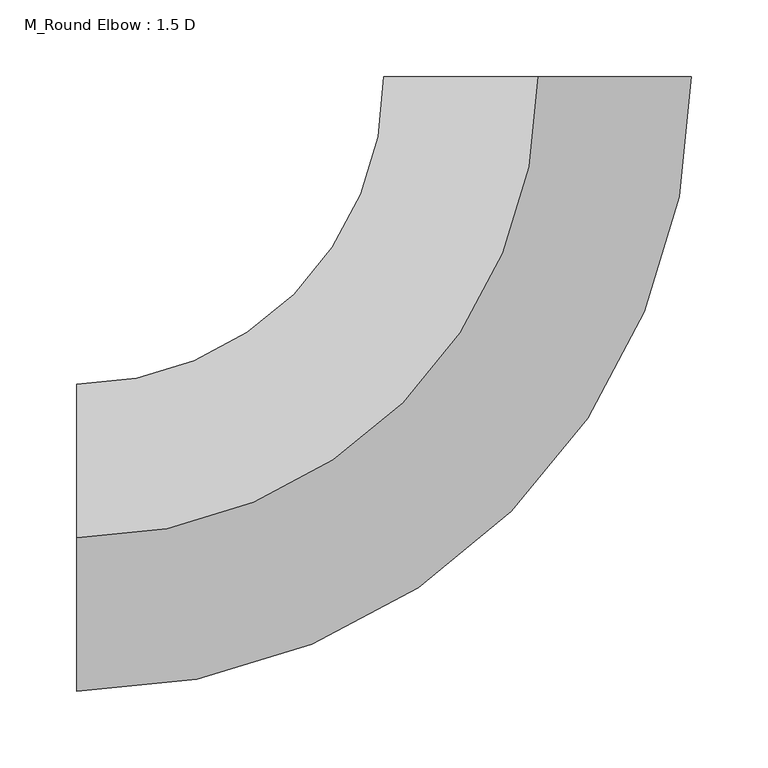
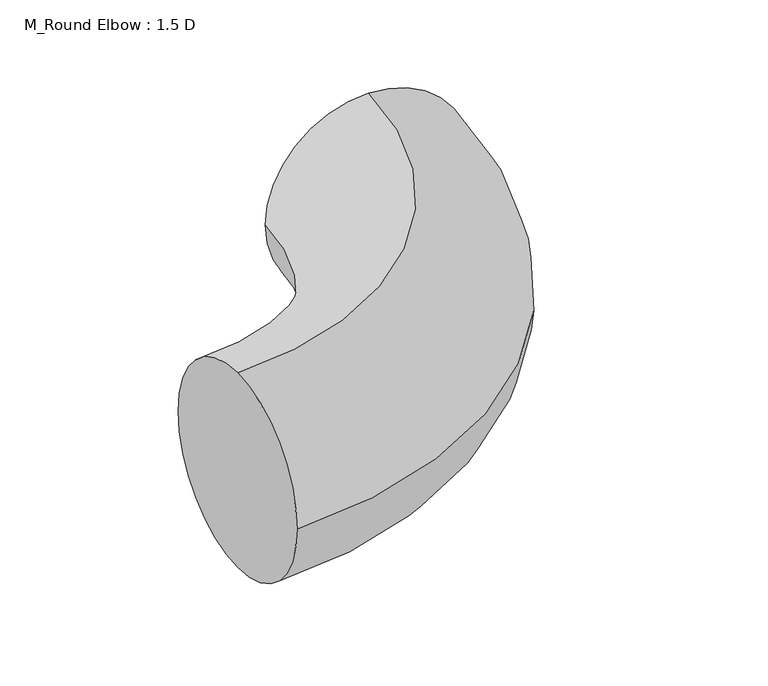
"""IFC4 building model written with IfcOpenShell, lengths in millimetres: duct fitting geometry, M_Round Elbow : 1.5 D."""

from ifc_helpers import new_model, si_unit, point, frame, origin, place, context, project, spatial, circle_curve, ellipse_curve, trimmed, source, transform, mapped, element, save
from ifc_brep_helpers import plane_surface, revolved_surface, advanced_brep


def m_round_elbow_1_5_d_9bbe8e48(model_context):
    return source(origin(), model_context, "Body", "AdvancedBrep", [
        advanced_brep(
        [(-300.0041667, 0.0, 100.0), (-300.0041667, 100.0, 0.0), (-300.0041667, 0.0, -100.0), (-300.0041667, -100.0, 0.0), (-0.0041667, 300.0041667, 100.0), (99.9958333, 300.0055556, 0.0), (-0.0041667, 300.0041667, -100.0), (-100.0041667, 300.0027778, 0.0)],
        [
            (0, 1, circle_curve(frame((-300.0041667, 0.0, 0.0), z_axis=(-1.0, 0.0, 0.0), x_axis=(0.0, 1.0, 0.0)), 100.0)),
            (1, 2, circle_curve(frame((-300.0041667, 0.0, 0.0), z_axis=(-1.0, 0.0, 0.0), x_axis=(0.0, 1.0, 0.0)), 100.0)),
            (2, 3, circle_curve(frame((-300.0041667, 0.0, 0.0), z_axis=(-1.0, 0.0, 0.0), x_axis=(0.0, 1.0, 0.0)), 100.0)),
            (3, 0, circle_curve(frame((-300.0041667, 0.0, 0.0), z_axis=(-1.0, 0.0, 0.0), x_axis=(0.0, 1.0, 0.0)), 100.0)),
            (4, 5, circle_curve(frame((-0.0041667, 300.0041667, 0.0), z_axis=(-1.3888888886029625e-05, 0.9999999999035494, 0.0), x_axis=(-0.9999999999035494, -1.3888888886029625e-05, 0.0)), 100.0)),
            (5, 6, circle_curve(frame((-0.0041667, 300.0041667, 0.0), z_axis=(-1.3888888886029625e-05, 0.9999999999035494, 0.0), x_axis=(-0.9999999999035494, -1.3888888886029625e-05, 0.0)), 100.0)),
            (6, 7, circle_curve(frame((-0.0041667, 300.0041667, 0.0), z_axis=(-1.3888888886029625e-05, 0.9999999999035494, 0.0), x_axis=(-0.9999999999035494, -1.3888888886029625e-05, 0.0)), 100.0)),
            (7, 4, circle_curve(frame((-0.0041667, 300.0041667, 0.0), z_axis=(-1.3888888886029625e-05, 0.9999999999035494, 0.0), x_axis=(-0.9999999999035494, -1.3888888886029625e-05, 0.0)), 100.0)),
            (7, 1, circle_curve(frame((-300.0041667, 300.0, 0.0), z_axis=(0.0, 0.0, -1.0), x_axis=(0.0, -1.0, 0.0)), 200.0)),
            (0, 4, circle_curve(frame((-300.0041667, 300.0, 100.0), z_axis=(0.0, 0.0, 1.0), x_axis=(0.0, -1.0, 0.0)), 300.0)),
            (6, 2, circle_curve(frame((-300.0041667, 300.0, -100.0), z_axis=(0.0, 0.0, -1.0), x_axis=(0.0, -1.0, 0.0)), 300.0)),
            (5, 3, circle_curve(frame((-300.0041667, 300.0, 0.0), z_axis=(0.0, 0.0, -1.0), x_axis=(0.0, -1.0, 0.0)), 400.0)),
        ],
        [
            plane_surface(frame((-300.0041667, 0.0, 0.0), z_axis=(-1.0, 0.0, 0.0), x_axis=(0.0, 0.0, 1.0))),
            plane_surface(frame((-0.0041667, 300.0041667, 0.0), z_axis=(-1.3888888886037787e-05, 0.9999999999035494, 0.0), x_axis=(0.0, 0.0, 1.0))),
            revolved_surface(trimmed(ellipse_curve(frame((-300.0041667, 0.0, 0.0), z_axis=(-1.0, 0.0, 0.0), x_axis=(0.0, 1.0, 0.0)), 100.0, 100.0), [point((-300.0041667, 0.0, 100.0))], [point((-300.0041667, 100.0, 0.0))], True, "CARTESIAN"), (-300.0041667, 300.0, 0.0), (0.0, 0.0, 1.0)),
            revolved_surface(trimmed(ellipse_curve(frame((-300.0041667, 0.0, 0.0), z_axis=(-1.0, 0.0, 0.0), x_axis=(0.0, 1.0, 0.0)), 100.0, 100.0), [point((-300.0041667, 100.0, 0.0))], [point((-300.0041667, 0.0, -100.0))], True, "CARTESIAN"), (-300.0041667, 300.0, 0.0), (0.0, 0.0, 1.0)),
            revolved_surface(trimmed(ellipse_curve(frame((-300.0041667, 0.0, 0.0), z_axis=(-1.0, 0.0, 0.0), x_axis=(0.0, 1.0, 0.0)), 100.0, 100.0), [point((-300.0041667, 0.0, -100.0))], [point((-300.0041667, -100.0, 0.0))], True, "CARTESIAN"), (-300.0041667, 300.0, 0.0), (0.0, 0.0, 1.0)),
            revolved_surface(trimmed(ellipse_curve(frame((-300.0041667, 0.0, 0.0), z_axis=(-1.0, 0.0, 0.0), x_axis=(0.0, 1.0, 0.0)), 100.0, 100.0), [point((-300.0041667, -100.0, 0.0))], [point((-300.0041667, 0.0, 100.0))], True, "CARTESIAN"), (-300.0041667, 300.0, 0.0), (0.0, 0.0, 1.0)),
        ],
        [
            (0, [[1, 2, 3, 4]]),
            (1, [[5, 6, 7, 8]]),
            (2, [[9, -1, 10, -8]]),
            (3, [[11, -2, -9, -7]]),
            (4, [[12, -3, -11, -6]]),
            (5, [[-10, -4, -12, -5]]),
        ],
    ),
        advanced_brep(
        [(-300.0041667, 0.0, 100.0), (-300.0041667, 100.0, 0.0), (-300.0041667, 0.0, -100.0), (-300.0041667, -100.0, 0.0), (-0.0041667, 300.0041667, 100.0), (99.9958333, 300.0055556, 0.0), (-0.0041667, 300.0041667, -100.0), (-100.0041667, 300.0027778, 0.0)],
        [
            (0, 1, circle_curve(frame((-300.0041667, 0.0, 0.0), z_axis=(-1.0, 0.0, 0.0), x_axis=(0.0, 1.0, 0.0)), 100.0)),
            (1, 2, circle_curve(frame((-300.0041667, 0.0, 0.0), z_axis=(-1.0, 0.0, 0.0), x_axis=(0.0, 1.0, 0.0)), 100.0)),
            (2, 3, circle_curve(frame((-300.0041667, 0.0, 0.0), z_axis=(-1.0, 0.0, 0.0), x_axis=(0.0, 1.0, 0.0)), 100.0)),
            (3, 0, circle_curve(frame((-300.0041667, 0.0, 0.0), z_axis=(-1.0, 0.0, 0.0), x_axis=(0.0, 1.0, 0.0)), 100.0)),
            (4, 5, circle_curve(frame((-0.0041667, 300.0041667, 0.0), z_axis=(-1.3888888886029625e-05, 0.9999999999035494, 0.0), x_axis=(-0.9999999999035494, -1.3888888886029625e-05, 0.0)), 100.0)),
            (5, 6, circle_curve(frame((-0.0041667, 300.0041667, 0.0), z_axis=(-1.3888888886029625e-05, 0.9999999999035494, 0.0), x_axis=(-0.9999999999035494, -1.3888888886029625e-05, 0.0)), 100.0)),
            (6, 7, circle_curve(frame((-0.0041667, 300.0041667, 0.0), z_axis=(-1.3888888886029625e-05, 0.9999999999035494, 0.0), x_axis=(-0.9999999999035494, -1.3888888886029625e-05, 0.0)), 100.0)),
            (7, 4, circle_curve(frame((-0.0041667, 300.0041667, 0.0), z_axis=(-1.3888888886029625e-05, 0.9999999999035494, 0.0), x_axis=(-0.9999999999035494, -1.3888888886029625e-05, 0.0)), 100.0)),
            (7, 1, circle_curve(frame((-300.0041667, 300.0, 0.0), z_axis=(0.0, 0.0, -1.0), x_axis=(0.0, -1.0, 0.0)), 200.0)),
            (0, 4, circle_curve(frame((-300.0041667, 300.0, 100.0), z_axis=(0.0, 0.0, 1.0), x_axis=(0.0, -1.0, 0.0)), 300.0)),
            (6, 2, circle_curve(frame((-300.0041667, 300.0, -100.0), z_axis=(0.0, 0.0, -1.0), x_axis=(0.0, -1.0, 0.0)), 300.0)),
            (5, 3, circle_curve(frame((-300.0041667, 300.0, 0.0), z_axis=(0.0, 0.0, -1.0), x_axis=(0.0, -1.0, 0.0)), 400.0)),
        ],
        [
            plane_surface(frame((-300.0041667, 0.0, 0.0), z_axis=(-1.0, 0.0, 0.0), x_axis=(0.0, 0.0, 1.0))),
            plane_surface(frame((-0.0041667, 300.0041667, 0.0), z_axis=(-1.3888888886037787e-05, 0.9999999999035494, 0.0), x_axis=(0.0, 0.0, 1.0))),
            revolved_surface(trimmed(ellipse_curve(frame((-300.0041667, 0.0, 0.0), z_axis=(-1.0, 0.0, 0.0), x_axis=(0.0, 1.0, 0.0)), 100.0, 100.0), [point((-300.0041667, 0.0, 100.0))], [point((-300.0041667, 100.0, 0.0))], True, "CARTESIAN"), (-300.0041667, 300.0, 0.0), (0.0, 0.0, 1.0)),
            revolved_surface(trimmed(ellipse_curve(frame((-300.0041667, 0.0, 0.0), z_axis=(-1.0, 0.0, 0.0), x_axis=(0.0, 1.0, 0.0)), 100.0, 100.0), [point((-300.0041667, 100.0, 0.0))], [point((-300.0041667, 0.0, -100.0))], True, "CARTESIAN"), (-300.0041667, 300.0, 0.0), (0.0, 0.0, 1.0)),
            revolved_surface(trimmed(ellipse_curve(frame((-300.0041667, 0.0, 0.0), z_axis=(-1.0, 0.0, 0.0), x_axis=(0.0, 1.0, 0.0)), 100.0, 100.0), [point((-300.0041667, 0.0, -100.0))], [point((-300.0041667, -100.0, 0.0))], True, "CARTESIAN"), (-300.0041667, 300.0, 0.0), (0.0, 0.0, 1.0)),
            revolved_surface(trimmed(ellipse_curve(frame((-300.0041667, 0.0, 0.0), z_axis=(-1.0, 0.0, 0.0), x_axis=(0.0, 1.0, 0.0)), 100.0, 100.0), [point((-300.0041667, -100.0, 0.0))], [point((-300.0041667, 0.0, 100.0))], True, "CARTESIAN"), (-300.0041667, 300.0, 0.0), (0.0, 0.0, 1.0)),
        ],
        [
            (0, [[1, 2, 3, 4]]),
            (1, [[5, 6, 7, 8]]),
            (2, [[9, -1, 10, -8]]),
            (3, [[11, -2, -9, -7]]),
            (4, [[12, -3, -11, -6]]),
            (5, [[-10, -4, -12, -5]]),
        ],
    ),
        advanced_brep(
        [(-300.0041667, 0.0, 100.0), (-300.0041667, 100.0, 0.0), (-300.0041667, 0.0, -100.0), (-300.0041667, -100.0, 0.0), (-0.0041667, 300.0041667, 100.0), (99.9958333, 300.0055556, 0.0), (-0.0041667, 300.0041667, -100.0), (-100.0041667, 300.0027778, 0.0)],
        [
            (0, 1, circle_curve(frame((-300.0041667, 0.0, 0.0), z_axis=(-1.0, 0.0, 0.0), x_axis=(0.0, 1.0, 0.0)), 100.0)),
            (1, 2, circle_curve(frame((-300.0041667, 0.0, 0.0), z_axis=(-1.0, 0.0, 0.0), x_axis=(0.0, 1.0, 0.0)), 100.0)),
            (2, 3, circle_curve(frame((-300.0041667, 0.0, 0.0), z_axis=(-1.0, 0.0, 0.0), x_axis=(0.0, 1.0, 0.0)), 100.0)),
            (3, 0, circle_curve(frame((-300.0041667, 0.0, 0.0), z_axis=(-1.0, 0.0, 0.0), x_axis=(0.0, 1.0, 0.0)), 100.0)),
            (4, 5, circle_curve(frame((-0.0041667, 300.0041667, 0.0), z_axis=(-1.3888888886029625e-05, 0.9999999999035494, 0.0), x_axis=(-0.9999999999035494, -1.3888888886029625e-05, 0.0)), 100.0)),
            (5, 6, circle_curve(frame((-0.0041667, 300.0041667, 0.0), z_axis=(-1.3888888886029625e-05, 0.9999999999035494, 0.0), x_axis=(-0.9999999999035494, -1.3888888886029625e-05, 0.0)), 100.0)),
            (6, 7, circle_curve(frame((-0.0041667, 300.0041667, 0.0), z_axis=(-1.3888888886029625e-05, 0.9999999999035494, 0.0), x_axis=(-0.9999999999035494, -1.3888888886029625e-05, 0.0)), 100.0)),
            (7, 4, circle_curve(frame((-0.0041667, 300.0041667, 0.0), z_axis=(-1.3888888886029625e-05, 0.9999999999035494, 0.0), x_axis=(-0.9999999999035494, -1.3888888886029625e-05, 0.0)), 100.0)),
            (7, 1, circle_curve(frame((-300.0041667, 300.0, 0.0), z_axis=(0.0, 0.0, -1.0), x_axis=(0.0, -1.0, 0.0)), 200.0)),
            (0, 4, circle_curve(frame((-300.0041667, 300.0, 100.0), z_axis=(0.0, 0.0, 1.0), x_axis=(0.0, -1.0, 0.0)), 300.0)),
            (6, 2, circle_curve(frame((-300.0041667, 300.0, -100.0), z_axis=(0.0, 0.0, -1.0), x_axis=(0.0, -1.0, 0.0)), 300.0)),
            (5, 3, circle_curve(frame((-300.0041667, 300.0, 0.0), z_axis=(0.0, 0.0, -1.0), x_axis=(0.0, -1.0, 0.0)), 400.0)),
        ],
        [
            plane_surface(frame((-300.0041667, 0.0, 0.0), z_axis=(-1.0, 0.0, 0.0), x_axis=(0.0, 0.0, 1.0))),
            plane_surface(frame((-0.0041667, 300.0041667, 0.0), z_axis=(-1.3888888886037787e-05, 0.9999999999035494, 0.0), x_axis=(0.0, 0.0, 1.0))),
            revolved_surface(trimmed(ellipse_curve(frame((-300.0041667, 0.0, 0.0), z_axis=(-1.0, 0.0, 0.0), x_axis=(0.0, 1.0, 0.0)), 100.0, 100.0), [point((-300.0041667, 0.0, 100.0))], [point((-300.0041667, 100.0, 0.0))], True, "CARTESIAN"), (-300.0041667, 300.0, 0.0), (0.0, 0.0, 1.0)),
            revolved_surface(trimmed(ellipse_curve(frame((-300.0041667, 0.0, 0.0), z_axis=(-1.0, 0.0, 0.0), x_axis=(0.0, 1.0, 0.0)), 100.0, 100.0), [point((-300.0041667, 100.0, 0.0))], [point((-300.0041667, 0.0, -100.0))], True, "CARTESIAN"), (-300.0041667, 300.0, 0.0), (0.0, 0.0, 1.0)),
            revolved_surface(trimmed(ellipse_curve(frame((-300.0041667, 0.0, 0.0), z_axis=(-1.0, 0.0, 0.0), x_axis=(0.0, 1.0, 0.0)), 100.0, 100.0), [point((-300.0041667, 0.0, -100.0))], [point((-300.0041667, -100.0, 0.0))], True, "CARTESIAN"), (-300.0041667, 300.0, 0.0), (0.0, 0.0, 1.0)),
            revolved_surface(trimmed(ellipse_curve(frame((-300.0041667, 0.0, 0.0), z_axis=(-1.0, 0.0, 0.0), x_axis=(0.0, 1.0, 0.0)), 100.0, 100.0), [point((-300.0041667, -100.0, 0.0))], [point((-300.0041667, 0.0, 100.0))], True, "CARTESIAN"), (-300.0041667, 300.0, 0.0), (0.0, 0.0, 1.0)),
        ],
        [
            (0, [[1, 2, 3, 4]]),
            (1, [[5, 6, 7, 8]]),
            (2, [[9, -1, 10, -8]]),
            (3, [[11, -2, -9, -7]]),
            (4, [[12, -3, -11, -6]]),
            (5, [[-10, -4, -12, -5]]),
        ],
    ),
    ])


if __name__ == "__main__":
    model = new_model("IFC4")
    model_context = context("Model", 3, world=origin())
    ifc_project = project(units=[si_unit("LENGTHUNIT", "METRE", prefix="MILLI")], contexts=[model_context])
    site = spatial("IfcSite", under=ifc_project)
    building = spatial("IfcBuilding", under=site)
    placement = place(None, origin())
    m_round_elbow_1_5_d_shape = m_round_elbow_1_5_d_9bbe8e48(model_context)
    element("IfcDuctFitting", 1, ObjectType="M_Round Elbow : 1.5 D", at=placement, inside=building, context=model_context, shape_type="MappedRepresentation", body=[
        mapped(m_round_elbow_1_5_d_shape, transform((0.0, 0.0, 0.0), x_axis=(1.0, 0.0, 0.0), y_axis=(0.0, 1.0, 0.0), z_axis=(0.0, 0.0, 1.0))),
    ])
    save(model, "model.ifc")
